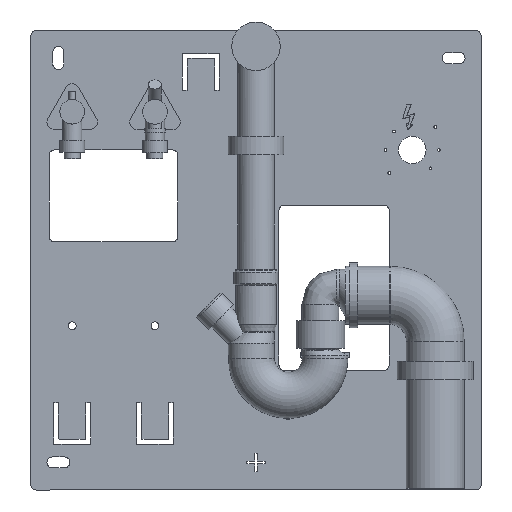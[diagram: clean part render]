
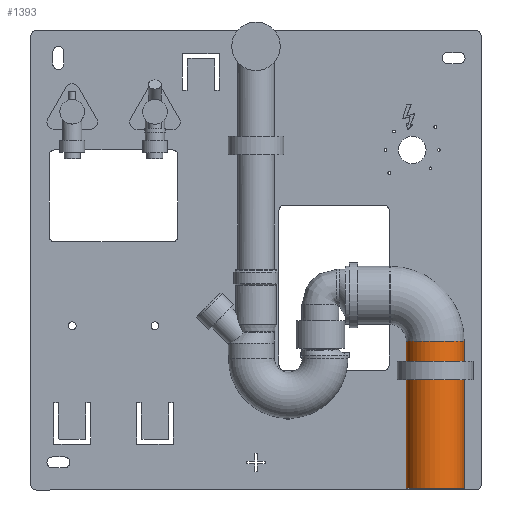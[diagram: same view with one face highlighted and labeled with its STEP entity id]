
A CAD part, front view. The second image highlights one B-rep face of the part: STEP entity #1393.
In plain terms, the highlighted cylindrical face has radius 31.5 mm (diameter 63 mm), a full revolution.
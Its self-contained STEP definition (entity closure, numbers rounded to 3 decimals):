
#1393=ADVANCED_FACE('',(#2860,#2861),#2862,.T.);
#2860=FACE_BOUND('',#4884,.T.);
#2861=FACE_BOUND('',#4885,.T.);
#2862=CYLINDRICAL_SURFACE('',#4886,31.5);
#4884=EDGE_LOOP('',(#6092));
#4885=EDGE_LOOP('',(#6093));
#4886=AXIS2_PLACEMENT_3D('',#6094,#6095,#6096);
#6092=ORIENTED_EDGE('',*,*,#8953,.T.);
#6093=ORIENTED_EDGE('',*,*,#8954,.F.);
#6094=CARTESIAN_POINT('',(253.235,-50.0,190.0));
#6095=DIRECTION('',(0.,0.,-1.0));
#6096=DIRECTION('',(0.,1.0,0.));
#8953=EDGE_CURVE('',#11442,#11442,#11443,.T.);
#8954=EDGE_CURVE('',#11444,#11444,#11445,.T.);
#11442=VERTEX_POINT('',#13086);
#11443=CIRCLE('',#13087,31.5);
#11444=VERTEX_POINT('',#13088);
#11445=CIRCLE('',#13089,31.5);
#13086=CARTESIAN_POINT('',(221.735,-50.0,350.));
#13087=AXIS2_PLACEMENT_3D('',#14893,#14894,#14895);
#13088=CARTESIAN_POINT('',(253.235,-18.5,190.0));
#13089=AXIS2_PLACEMENT_3D('',#14896,#14897,#14898);
#14893=CARTESIAN_POINT('',(253.235,-50.0,350.));
#14894=DIRECTION('',(0.0,0.0,-1.0));
#14895=DIRECTION('',(1.0,0.0,0.0));
#14896=CARTESIAN_POINT('',(253.235,-50.0,190.0));
#14897=DIRECTION('',(0.,0.,-1.0));
#14898=DIRECTION('',(0.,1.0,0.));
